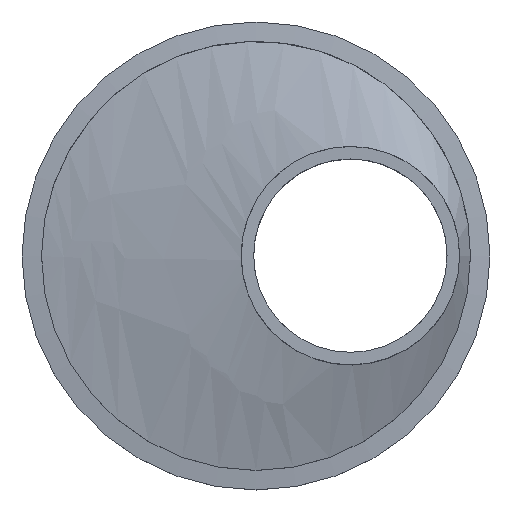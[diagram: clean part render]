
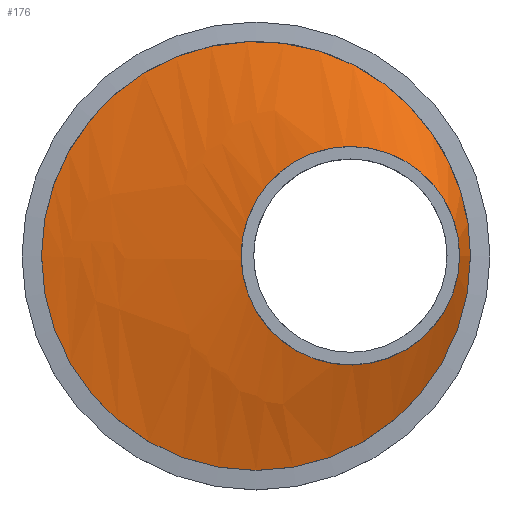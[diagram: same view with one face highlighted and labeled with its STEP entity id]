
A CAD part, top view. The second image highlights one B-rep face of the part: STEP entity #176.
In plain terms, the highlighted free-form (B-spline) face has degree [1, 2] with [2, 9] control points.
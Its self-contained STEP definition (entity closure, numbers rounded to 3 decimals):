
#15=B_SPLINE_CURVE_WITH_KNOTS($,1,(#337,#338),.UNSPECIFIED.,.F.,.F.,(2,
2),(-0.546,0.),.UNSPECIFIED.);
#17=(
BOUNDED_SURFACE()
B_SPLINE_SURFACE(1,2,((#315,#316,#317,#318,#319,#320,#321,#322,#323),(#324,
#325,#326,#327,#328,#329,#330,#331,#332)),.UNSPECIFIED.,.F.,.T.,.F.)
B_SPLINE_SURFACE_WITH_KNOTS((2,2),(3,2,2,2,3),(-2.94,0.784),
(-3.142,-1.571,0.,1.571,3.142),
 .UNSPECIFIED.)
GEOMETRIC_REPRESENTATION_ITEM()
RATIONAL_B_SPLINE_SURFACE(((1.,0.707,1.,0.707,1.,
0.707,1.,0.707,1.),(1.,0.707,1.,0.707,
1.,0.707,1.,0.707,1.)))
REPRESENTATION_ITEM($)
SURFACE()
);
#39=FACE_OUTER_BOUND($,#55,.T.);
#55=EDGE_LOOP($,(#135,#136,#137,#138,#139,#140));
#68=CIRCLE($,#192,55.);
#69=CIRCLE($,#193,55.);
#76=CIRCLE($,#202,28.);
#77=CIRCLE($,#203,28.);
#84=VERTEX_POINT($,#277);
#85=VERTEX_POINT($,#278);
#92=VERTEX_POINT($,#333);
#93=VERTEX_POINT($,#334);
#100=EDGE_CURVE($,#84,#85,#68,.T.);
#101=EDGE_CURVE($,#85,#84,#69,.T.);
#109=EDGE_CURVE($,#92,#93,#76,.T.);
#110=EDGE_CURVE($,#93,#92,#77,.T.);
#111=EDGE_CURVE($,#93,#85,#15,.T.);
#135=ORIENTED_EDGE($,*,*,#109,.F.);
#136=ORIENTED_EDGE($,*,*,#110,.F.);
#137=ORIENTED_EDGE($,*,*,#111,.T.);
#138=ORIENTED_EDGE($,*,*,#100,.F.);
#139=ORIENTED_EDGE($,*,*,#101,.F.);
#140=ORIENTED_EDGE($,*,*,#111,.F.);
#176=ADVANCED_FACE($,(#39),#17,.F.);
#192=AXIS2_PLACEMENT_3D($,#279,#228,#229);
#193=AXIS2_PLACEMENT_3D($,#280,#230,#231);
#202=AXIS2_PLACEMENT_3D($,#335,#248,#249);
#203=AXIS2_PLACEMENT_3D($,#336,#250,#251);
#228=DIRECTION('center_axis',(0.,0.,-1.));
#229=DIRECTION('ref_axis',(-1.,0.,0.));
#230=DIRECTION('center_axis',(0.,0.,-1.));
#231=DIRECTION('ref_axis',(-1.,0.,0.));
#248=DIRECTION('center_axis',(0.,0.,1.));
#249=DIRECTION('ref_axis',(-1.,0.,0.));
#250=DIRECTION('center_axis',(0.,0.,1.));
#251=DIRECTION('ref_axis',(-1.,0.,0.));
#277=CARTESIAN_POINT('',(55.,0.,65.2));
#278=CARTESIAN_POINT('',(39.826,37.932,65.2));
#279=CARTESIAN_POINT('Origin',(0.,0.,65.2));
#280=CARTESIAN_POINT('Origin',(0.,0.,65.2));
#315=CARTESIAN_POINT('Ctrl Pts',(14.8,138.178,23.21));
#316=CARTESIAN_POINT('Ctrl Pts',(-55.519,138.178,65.121));
#317=CARTESIAN_POINT('Ctrl Pts',(-55.519,0.,
65.121));
#318=CARTESIAN_POINT('Ctrl Pts',(-55.519,-138.178,65.121));
#319=CARTESIAN_POINT('Ctrl Pts',(14.8,-138.178,23.21));
#320=CARTESIAN_POINT('Ctrl Pts',(85.118,-138.178,-18.701));
#321=CARTESIAN_POINT('Ctrl Pts',(85.118,0.,
-18.701));
#322=CARTESIAN_POINT('Ctrl Pts',(85.118,138.178,-18.701));
#323=CARTESIAN_POINT('Ctrl Pts',(14.8,138.178,23.21));
#324=CARTESIAN_POINT('Ctrl Pts',(46.5,11.201,76.397));
#325=CARTESIAN_POINT('Ctrl Pts',(40.8,11.201,79.795));
#326=CARTESIAN_POINT('Ctrl Pts',(40.8,0.,79.795));
#327=CARTESIAN_POINT('Ctrl Pts',(40.8,-11.201,79.795));
#328=CARTESIAN_POINT('Ctrl Pts',(46.5,-11.201,76.397));
#329=CARTESIAN_POINT('Ctrl Pts',(52.2,-11.201,73.));
#330=CARTESIAN_POINT('Ctrl Pts',(52.2,0.,73.));
#331=CARTESIAN_POINT('Ctrl Pts',(52.2,11.201,73.));
#332=CARTESIAN_POINT('Ctrl Pts',(46.5,11.201,76.397));
#333=CARTESIAN_POINT('',(52.2,0.,73.));
#334=CARTESIAN_POINT('',(44.475,19.311,73.));
#335=CARTESIAN_POINT('Origin',(24.2,0.,73.));
#336=CARTESIAN_POINT('Origin',(24.2,0.,73.));
#337=CARTESIAN_POINT('Ctrl Pts',(44.475,19.311,73.));
#338=CARTESIAN_POINT('Ctrl Pts',(39.826,37.932,65.2));
